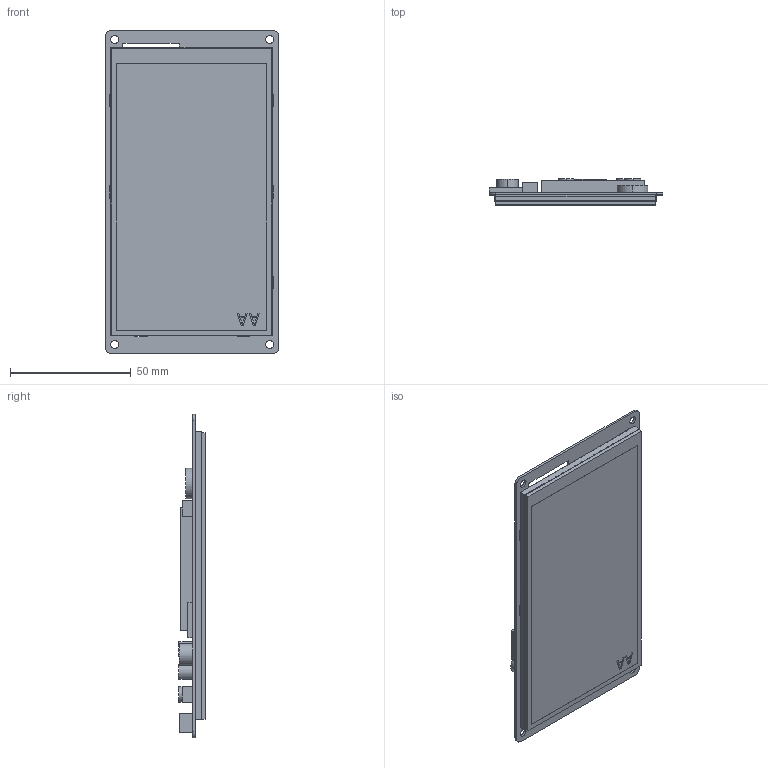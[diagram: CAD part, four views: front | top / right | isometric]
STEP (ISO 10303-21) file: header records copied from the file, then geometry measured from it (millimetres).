
FILE_DESCRIPTION((''),'2;1');
FILE_NAME('DMG12720T050-01WTC_ASM','2022-10-14T',('Administrator'),(''),'PRO/ENGINEER BY PARAMETRIC TECHNOLOGY CORPORATION, 2014320','PRO/ENGINEER BY PARAMETRIC TECHNOLOGY CORPORATION, 2014320','');
FILE_SCHEMA(('CONFIG_CONTROL_DESIGN','SHAPE_APPEARANCE_LAYERS_GROUPS'));
Length unit declared in the file: millimetre
Products named in the file (5): TK050006; TM050JDHC02-00; PCB; YF05020; DMG12720T050-01WTC_ASM
Assembly tree (4 placements, depth 2):
  DMG12720T050-01WTC_ASM
    TK050006
    TM050JDHC02-00
    PCB
    YF05020
Bounding box: 71.88 x 10.9 x 133.86 mm (x, y, z)
Volume: 47090.2 mm3; surface area: 58278.4 mm2
Topology: 4 solids, 4 shells, 198 faces, 505 edges, 336 vertices
Faces by surface type: plane 167, cylinder 31
Entity records: 6294 total; most frequent: CARTESIAN_POINT 1048, ORIENTED_EDGE 1010, DIRECTION 981, EDGE_CURVE 505, VECTOR 443, LINE 443, VERTEX_POINT 336, AXIS2_PLACEMENT_3D 269
